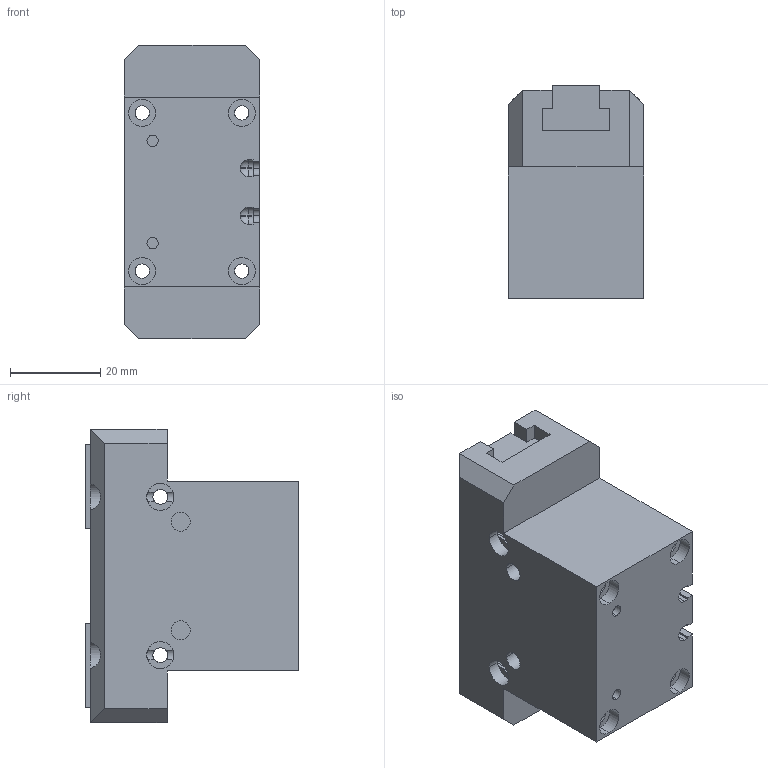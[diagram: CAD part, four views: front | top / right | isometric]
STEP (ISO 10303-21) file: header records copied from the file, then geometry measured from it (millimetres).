
FILE_DESCRIPTION (( 'STEP AP203' ), '1' );
FILE_NAME ('dh2204nc.STEP', '2011-08-03T08:22:21', ( 'Stefano' ), ( 'Gimatic' ), 'SwSTEP 2.0', 'SolidWorks 2010', '' );
FILE_SCHEMA (( 'CONFIG_CONTROL_DESIGN' ));
Length unit declared in the file: millimetre
Products named in the file (3): dh22_corpo_prolungato; dh22_griffa; dh2204nc
Assembly tree (3 placements, depth 2):
  dh2204nc
    dh22_griffa  x2
    dh22_corpo_prolungato
Bounding box: 30 x 47 x 65 mm (x, y, z)
Volume: 62580 mm3; surface area: 19699.2 mm2
Topology: 3 solids, 3 shells, 184 faces, 488 edges, 316 vertices
Faces by surface type: plane 94, cylinder 86, sphere 4
Entity records: 5787 total; most frequent: CARTESIAN_POINT 1356, DIRECTION 862, ORIENTED_EDGE 860, EDGE_CURVE 430, AXIS2_PLACEMENT_3D 310, VERTEX_POINT 280, VECTOR 242, LINE 242
